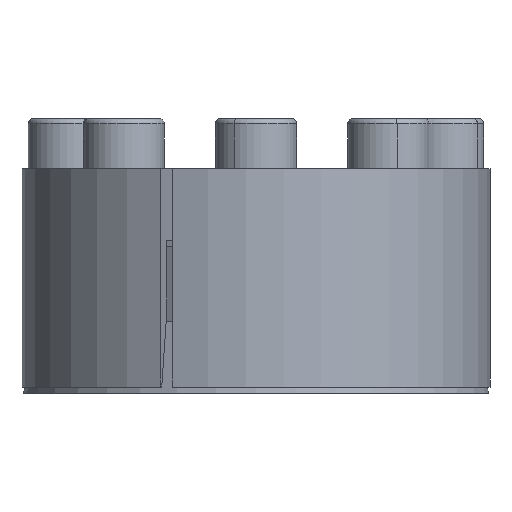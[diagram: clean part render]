
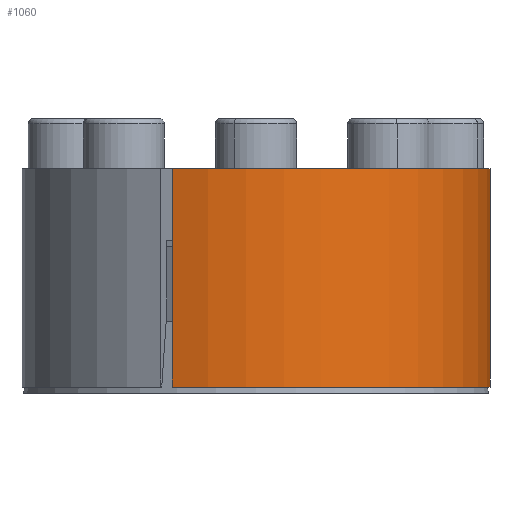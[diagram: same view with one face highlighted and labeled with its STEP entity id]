
A CAD part, front view. The second image highlights one B-rep face of the part: STEP entity #1060.
In plain terms, the highlighted cylindrical face has radius 37.5 mm (diameter 75 mm), a partial arc.
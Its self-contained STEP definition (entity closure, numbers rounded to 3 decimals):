
#85 = ORIENTED_EDGE ( 'NONE', *, *, #1378, .T. ) ;
#411 = VECTOR ( 'NONE', #3555, 1000. ) ;
#660 = AXIS2_PLACEMENT_3D ( 'NONE', #7274, #1406, #8252 ) ;
#668 = CARTESIAN_POINT ( 'NONE',  ( 37.5, 0., 1.008 ) ) ;
#825 = CARTESIAN_POINT ( 'NONE',  ( 0., 0., 36.008 ) ) ;
#1060 = ADVANCED_FACE ( 'NONE', ( #8135 ), #6763, .T. ) ;
#1287 = AXIS2_PLACEMENT_3D ( 'NONE', #10145, #10443, #8102 ) ;
#1290 = CARTESIAN_POINT ( 'NONE',  ( -13.422, -35.016, 1.008 ) ) ;
#1378 = EDGE_CURVE ( 'NONE', #2183, #10883, #5843, .T. ) ;
#1406 = DIRECTION ( 'NONE',  ( 0., 0., -1. ) ) ;
#1802 = DIRECTION ( 'NONE',  ( 1., 0., 0. ) ) ;
#2093 = EDGE_CURVE ( 'NONE', #12197, #10883, #11452, .T. ) ;
#2183 = VERTEX_POINT ( 'NONE', #9377 ) ;
#3300 = ORIENTED_EDGE ( 'NONE', *, *, #3349, .T. ) ;
#3349 = EDGE_CURVE ( 'NONE', #3847, #2183, #10782, .T. ) ;
#3555 = DIRECTION ( 'NONE',  ( 0., 0., 1. ) ) ;
#3847 = VERTEX_POINT ( 'NONE', #4156 ) ;
#4156 = CARTESIAN_POINT ( 'NONE',  ( 37.5, 0., 36.008 ) ) ;
#4663 = EDGE_CURVE ( 'NONE', #12197, #3847, #10800, .T. ) ;
#4679 = CARTESIAN_POINT ( 'NONE',  ( -13.422, -35.016, 1.008 ) ) ;
#5843 = LINE ( 'NONE', #1290, #11026 ) ;
#6514 = ORIENTED_EDGE ( 'NONE', *, *, #4663, .T. ) ;
#6763 = CYLINDRICAL_SURFACE ( 'NONE', #1287, 37.5 ) ;
#7274 = CARTESIAN_POINT ( 'NONE',  ( 0., 0., 1.008 ) ) ;
#7662 = DIRECTION ( 'NONE',  ( 0., 0., -1. ) ) ;
#8102 = DIRECTION ( 'NONE',  ( -1., 0., 0. ) ) ;
#8135 = FACE_OUTER_BOUND ( 'NONE', #10760, .T. ) ;
#8137 = DIRECTION ( 'NONE',  ( 0., 0., -1. ) ) ;
#8252 = DIRECTION ( 'NONE',  ( 1., 0., 0. ) ) ;
#9377 = CARTESIAN_POINT ( 'NONE',  ( -13.422, -35.016, 36.008 ) ) ;
#9419 = CARTESIAN_POINT ( 'NONE',  ( 37.5, 0., 1.008 ) ) ;
#9703 = ORIENTED_EDGE ( 'NONE', *, *, #2093, .F. ) ;
#10145 = CARTESIAN_POINT ( 'NONE',  ( 0., 0., 1.008 ) ) ;
#10443 = DIRECTION ( 'NONE',  ( 0., 0., 1. ) ) ;
#10644 = AXIS2_PLACEMENT_3D ( 'NONE', #825, #7662, #1802 ) ;
#10760 = EDGE_LOOP ( 'NONE', ( #9703, #6514, #3300, #85 ) ) ;
#10782 = CIRCLE ( 'NONE', #10644, 37.5 ) ;
#10800 = LINE ( 'NONE', #9419, #411 ) ;
#10883 = VERTEX_POINT ( 'NONE', #4679 ) ;
#11026 = VECTOR ( 'NONE', #8137, 1000. ) ;
#11452 = CIRCLE ( 'NONE', #660, 37.5 ) ;
#12197 = VERTEX_POINT ( 'NONE', #668 ) ;
